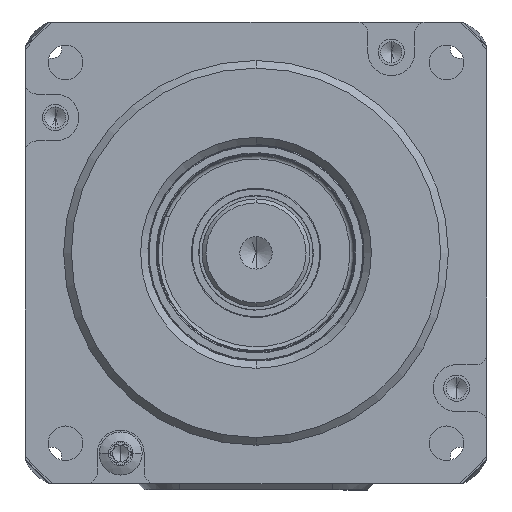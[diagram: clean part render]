
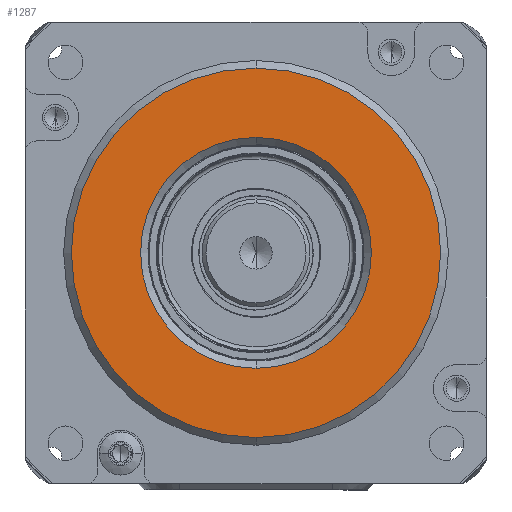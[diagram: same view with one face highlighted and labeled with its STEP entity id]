
A CAD part, left-side view. The second image highlights one B-rep face of the part: STEP entity #1287.
In plain terms, the highlighted planar face has unit normal (-1, 0, 0) as drawn and (1, 0, 0) by its records, which use the part's own axes.
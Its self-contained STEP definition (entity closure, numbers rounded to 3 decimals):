
#784 = ORIENTED_EDGE ( 'NONE', *, *, #14580, .T. ) ;
#1136 = ORIENTED_EDGE ( 'NONE', *, *, #18034, .T. ) ;
#1249 = PLANE ( 'NONE',  #11866 ) ;
#1269 = DIRECTION ( 'NONE',  ( 1., 0., 0. ) ) ;
#1287 = ADVANCED_FACE ( 'NONE', ( #17553, #15991 ), #1249, .T. ) ;
#1394 = DIRECTION ( 'NONE',  ( -1., 0., 0. ) ) ;
#1726 = EDGE_CURVE ( 'NONE', #18596, #17086, #11132, .T. ) ;
#1738 = CARTESIAN_POINT ( 'NONE',  ( 8., 0., 0. ) ) ;
#1958 = CIRCLE ( 'NONE', #15368, 24. ) ;
#3128 = DIRECTION ( 'NONE',  ( 1., 0., 0. ) ) ;
#4256 = AXIS2_PLACEMENT_3D ( 'NONE', #21782, #1394, #18065 ) ;
#6802 = CARTESIAN_POINT ( 'NONE',  ( 8., 0., -24. ) ) ;
#8155 = CARTESIAN_POINT ( 'NONE',  ( 8., 0., 24. ) ) ;
#8447 = DIRECTION ( 'NONE',  ( -1., 0., 0. ) ) ;
#9147 = AXIS2_PLACEMENT_3D ( 'NONE', #19389, #8447, #15780 ) ;
#10113 = CARTESIAN_POINT ( 'NONE',  ( 8., 0., 0. ) ) ;
#10427 = DIRECTION ( 'NONE',  ( 0., 0., -1. ) ) ;
#11132 = CIRCLE ( 'NONE', #4256, 15. ) ;
#11866 = AXIS2_PLACEMENT_3D ( 'NONE', #10113, #13748, #22987 ) ;
#12967 = CIRCLE ( 'NONE', #9147, 15. ) ;
#13668 = VERTEX_POINT ( 'NONE', #8155 ) ;
#13748 = DIRECTION ( 'NONE',  ( 1., 0., 0. ) ) ;
#14046 = CARTESIAN_POINT ( 'NONE',  ( 8., 0., 0. ) ) ;
#14580 = EDGE_CURVE ( 'NONE', #17086, #18596, #12967, .T. ) ;
#14625 = EDGE_CURVE ( 'NONE', #13668, #19034, #21417, .T. ) ;
#15368 = AXIS2_PLACEMENT_3D ( 'NONE', #14046, #3128, #10427 ) ;
#15780 = DIRECTION ( 'NONE',  ( 0., 0., -1. ) ) ;
#15991 = FACE_OUTER_BOUND ( 'NONE', #18547, .T. ) ;
#17086 = VERTEX_POINT ( 'NONE', #22189 ) ;
#17408 = CARTESIAN_POINT ( 'NONE',  ( 8., 0., 15. ) ) ;
#17553 = FACE_BOUND ( 'NONE', #17716, .T. ) ;
#17716 = EDGE_LOOP ( 'NONE', ( #784, #21715 ) ) ;
#18034 = EDGE_CURVE ( 'NONE', #19034, #13668, #1958, .T. ) ;
#18065 = DIRECTION ( 'NONE',  ( 0., 0., -1. ) ) ;
#18547 = EDGE_LOOP ( 'NONE', ( #20067, #1136 ) ) ;
#18596 = VERTEX_POINT ( 'NONE', #17408 ) ;
#19034 = VERTEX_POINT ( 'NONE', #6802 ) ;
#19389 = CARTESIAN_POINT ( 'NONE',  ( 8., 0., 0. ) ) ;
#20067 = ORIENTED_EDGE ( 'NONE', *, *, #14625, .T. ) ;
#21417 = CIRCLE ( 'NONE', #23736, 24. ) ;
#21715 = ORIENTED_EDGE ( 'NONE', *, *, #1726, .T. ) ;
#21782 = CARTESIAN_POINT ( 'NONE',  ( 8., 0., 0. ) ) ;
#22189 = CARTESIAN_POINT ( 'NONE',  ( 8., 0., -15. ) ) ;
#22987 = DIRECTION ( 'NONE',  ( 0., 0., -1. ) ) ;
#23228 = DIRECTION ( 'NONE',  ( 0., 0., -1. ) ) ;
#23736 = AXIS2_PLACEMENT_3D ( 'NONE', #1738, #1269, #23228 ) ;
